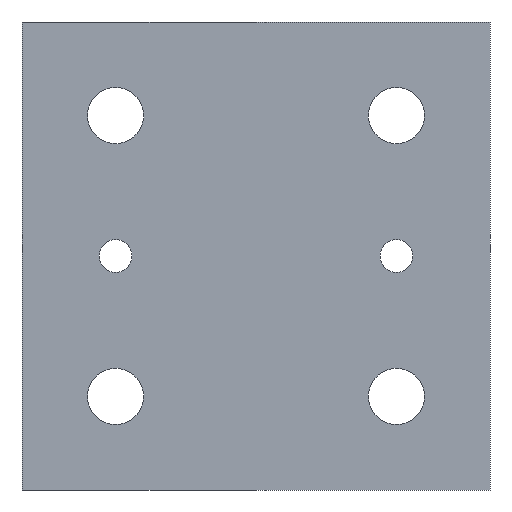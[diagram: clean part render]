
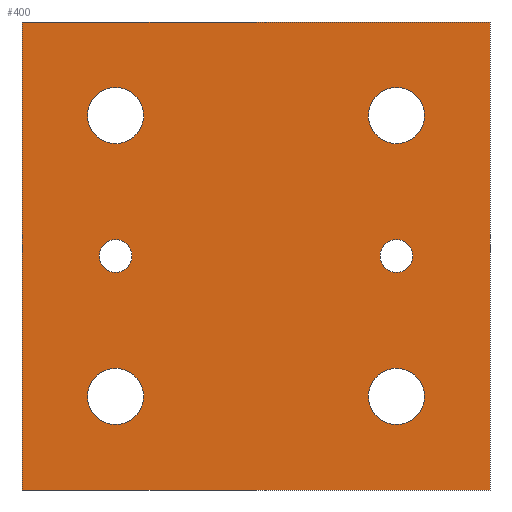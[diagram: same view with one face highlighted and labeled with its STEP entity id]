
A CAD part, front view. The second image highlights one B-rep face of the part: STEP entity #400.
In plain terms, the highlighted planar face has unit normal (0, -1, 0).
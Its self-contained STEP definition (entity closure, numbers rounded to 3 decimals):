
#1 = DIRECTION ( 'NONE',  ( 0., 0., -1. ) ) ;
#12 = EDGE_LOOP ( 'NONE', ( #107, #308 ) ) ;
#18 = CARTESIAN_POINT ( 'NONE',  ( 7., 0., 20. ) ) ;
#21 = ORIENTED_EDGE ( 'NONE', *, *, #258, .F. ) ;
#23 = ORIENTED_EDGE ( 'NONE', *, *, #498, .F. ) ;
#27 = DIRECTION ( 'NONE',  ( 0., 1., 0. ) ) ;
#35 = DIRECTION ( 'NONE',  ( 0., 1., 0. ) ) ;
#36 = CARTESIAN_POINT ( 'NONE',  ( 40., 0., 50. ) ) ;
#43 = ORIENTED_EDGE ( 'NONE', *, *, #119, .T. ) ;
#44 = CARTESIAN_POINT ( 'NONE',  ( 37., 0., 50. ) ) ;
#46 = EDGE_CURVE ( 'NONE', #563, #218, #174, .T. ) ;
#52 = CARTESIAN_POINT ( 'NONE',  ( 0., 0., 10. ) ) ;
#60 = EDGE_CURVE ( 'NONE', #589, #433, #224, .T. ) ;
#64 = DIRECTION ( 'NONE',  ( -1., 0., 0. ) ) ;
#66 = CARTESIAN_POINT ( 'NONE',  ( 43., 0., 50. ) ) ;
#67 = DIRECTION ( 'NONE',  ( 1., 0., 0. ) ) ;
#87 = CARTESIAN_POINT ( 'NONE',  ( 50., 0., 60. ) ) ;
#88 = CARTESIAN_POINT ( 'NONE',  ( 0., 0., 10. ) ) ;
#89 = EDGE_CURVE ( 'NONE', #534, #252, #588, .T. ) ;
#91 = EDGE_LOOP ( 'NONE', ( #200, #154 ) ) ;
#95 = FACE_BOUND ( 'NONE', #91, .T. ) ;
#100 = EDGE_LOOP ( 'NONE', ( #123, #673 ) ) ;
#107 = ORIENTED_EDGE ( 'NONE', *, *, #89, .T. ) ;
#114 = CIRCLE ( 'NONE', #324, 1.75 ) ;
#117 = CARTESIAN_POINT ( 'NONE',  ( 38.25, 0., 35. ) ) ;
#118 = CIRCLE ( 'NONE', #326, 3. ) ;
#119 = EDGE_CURVE ( 'NONE', #640, #162, #114, .T. ) ;
#123 = ORIENTED_EDGE ( 'NONE', *, *, #717, .T. ) ;
#127 = ORIENTED_EDGE ( 'NONE', *, *, #661, .T. ) ;
#136 = AXIS2_PLACEMENT_3D ( 'NONE', #660, #662, #545 ) ;
#140 = FACE_BOUND ( 'NONE', #12, .T. ) ;
#152 = DIRECTION ( 'NONE',  ( 1., 0., 0. ) ) ;
#154 = ORIENTED_EDGE ( 'NONE', *, *, #220, .T. ) ;
#158 = LINE ( 'NONE', #558, #653 ) ;
#161 = CIRCLE ( 'NONE', #304, 1.75 ) ;
#162 = VERTEX_POINT ( 'NONE', #349 ) ;
#163 = CARTESIAN_POINT ( 'NONE',  ( 10., 0., 20. ) ) ;
#174 = LINE ( 'NONE', #565, #720 ) ;
#176 = AXIS2_PLACEMENT_3D ( 'NONE', #36, #312, #152 ) ;
#177 = VERTEX_POINT ( 'NONE', #346 ) ;
#182 = CARTESIAN_POINT ( 'NONE',  ( 10., 0., 50. ) ) ;
#183 = CARTESIAN_POINT ( 'NONE',  ( 10., 0., 50. ) ) ;
#200 = ORIENTED_EDGE ( 'NONE', *, *, #60, .T. ) ;
#202 = CIRCLE ( 'NONE', #719, 1.75 ) ;
#207 = AXIS2_PLACEMENT_3D ( 'NONE', #318, #261, #479 ) ;
#215 = CIRCLE ( 'NONE', #289, 3. ) ;
#218 = VERTEX_POINT ( 'NONE', #696 ) ;
#219 = EDGE_LOOP ( 'NONE', ( #664, #43 ) ) ;
#220 = EDGE_CURVE ( 'NONE', #433, #589, #215, .T. ) ;
#224 = CIRCLE ( 'NONE', #703, 3. ) ;
#231 = CARTESIAN_POINT ( 'NONE',  ( 40., 0., 20. ) ) ;
#236 = CIRCLE ( 'NONE', #176, 3. ) ;
#243 = FACE_BOUND ( 'NONE', #665, .T. ) ;
#244 = DIRECTION ( 'NONE',  ( -1., 0., 0. ) ) ;
#252 = VERTEX_POINT ( 'NONE', #458 ) ;
#253 = VECTOR ( 'NONE', #581, 1000. ) ;
#258 = EDGE_CURVE ( 'NONE', #464, #386, #350, .T. ) ;
#261 = DIRECTION ( 'NONE',  ( 0., 1., 0. ) ) ;
#265 = EDGE_LOOP ( 'NONE', ( #504, #721, #23, #21 ) ) ;
#268 = CIRCLE ( 'NONE', #367, 3. ) ;
#280 = EDGE_CURVE ( 'NONE', #162, #640, #161, .T. ) ;
#281 = DIRECTION ( 'NONE',  ( 0., 1., 0. ) ) ;
#286 = DIRECTION ( 'NONE',  ( 0., 1., 0. ) ) ;
#289 = AXIS2_PLACEMENT_3D ( 'NONE', #359, #35, #297 ) ;
#297 = DIRECTION ( 'NONE',  ( 1., 0., 0. ) ) ;
#304 = AXIS2_PLACEMENT_3D ( 'NONE', #468, #541, #483 ) ;
#306 = VERTEX_POINT ( 'NONE', #44 ) ;
#308 = ORIENTED_EDGE ( 'NONE', *, *, #644, .T. ) ;
#312 = DIRECTION ( 'NONE',  ( 0., 1., 0. ) ) ;
#318 = CARTESIAN_POINT ( 'NONE',  ( 40., 0., 50. ) ) ;
#320 = EDGE_CURVE ( 'NONE', #627, #177, #118, .T. ) ;
#324 = AXIS2_PLACEMENT_3D ( 'NONE', #342, #399, #508 ) ;
#326 = AXIS2_PLACEMENT_3D ( 'NONE', #163, #370, #718 ) ;
#328 = CARTESIAN_POINT ( 'NONE',  ( 43., 0., 20. ) ) ;
#340 = CARTESIAN_POINT ( 'NONE',  ( 11.75, 0., 35. ) ) ;
#342 = CARTESIAN_POINT ( 'NONE',  ( 10., 0., 35. ) ) ;
#344 = DIRECTION ( 'NONE',  ( 0., 1., 0. ) ) ;
#346 = CARTESIAN_POINT ( 'NONE',  ( 13., 0., 20. ) ) ;
#349 = CARTESIAN_POINT ( 'NONE',  ( 8.25, 0., 35. ) ) ;
#350 = LINE ( 'NONE', #87, #647 ) ;
#359 = CARTESIAN_POINT ( 'NONE',  ( 40., 0., 20. ) ) ;
#361 = ORIENTED_EDGE ( 'NONE', *, *, #649, .T. ) ;
#363 = EDGE_CURVE ( 'NONE', #572, #306, #577, .T. ) ;
#367 = AXIS2_PLACEMENT_3D ( 'NONE', #183, #286, #568 ) ;
#370 = DIRECTION ( 'NONE',  ( 0., 1., 0. ) ) ;
#372 = FACE_OUTER_BOUND ( 'NONE', #265, .T. ) ;
#386 = VERTEX_POINT ( 'NONE', #536 ) ;
#387 = CARTESIAN_POINT ( 'NONE',  ( 7., 0., 50. ) ) ;
#396 = ORIENTED_EDGE ( 'NONE', *, *, #599, .T. ) ;
#398 = LINE ( 'NONE', #88, #253 ) ;
#399 = DIRECTION ( 'NONE',  ( 0., 1., 0. ) ) ;
#400 = ADVANCED_FACE ( 'NONE', ( #522, #140, #409, #95, #702, #243, #372 ), #481, .F. ) ;
#404 = DIRECTION ( 'NONE',  ( 1., 0., 0. ) ) ;
#409 = FACE_BOUND ( 'NONE', #100, .T. ) ;
#426 = ORIENTED_EDGE ( 'NONE', *, *, #320, .T. ) ;
#433 = VERTEX_POINT ( 'NONE', #328 ) ;
#444 = DIRECTION ( 'NONE',  ( 1., 0., 0. ) ) ;
#450 = CARTESIAN_POINT ( 'NONE',  ( 41.75, 0., 35. ) ) ;
#451 = DIRECTION ( 'NONE',  ( 1., 0., 0. ) ) ;
#458 = CARTESIAN_POINT ( 'NONE',  ( 13., 0., 50. ) ) ;
#459 = CARTESIAN_POINT ( 'NONE',  ( 40., 0., 35. ) ) ;
#464 = VERTEX_POINT ( 'NONE', #495 ) ;
#468 = CARTESIAN_POINT ( 'NONE',  ( 10., 0., 35. ) ) ;
#471 = DIRECTION ( 'NONE',  ( 0., 1., 0. ) ) ;
#473 = EDGE_LOOP ( 'NONE', ( #426, #127 ) ) ;
#479 = DIRECTION ( 'NONE',  ( 1., 0., 0. ) ) ;
#481 = PLANE ( 'NONE',  #136 ) ;
#483 = DIRECTION ( 'NONE',  ( -1., 0., 0. ) ) ;
#495 = CARTESIAN_POINT ( 'NONE',  ( 0., 0., 60. ) ) ;
#498 = EDGE_CURVE ( 'NONE', #386, #218, #158, .T. ) ;
#502 = CARTESIAN_POINT ( 'NONE',  ( 37., 0., 20. ) ) ;
#504 = ORIENTED_EDGE ( 'NONE', *, *, #707, .T. ) ;
#507 = VERTEX_POINT ( 'NONE', #117 ) ;
#508 = DIRECTION ( 'NONE',  ( -1., 0., 0. ) ) ;
#513 = CARTESIAN_POINT ( 'NONE',  ( 40., 0., 35. ) ) ;
#514 = DIRECTION ( 'NONE',  ( 1., 0., 0. ) ) ;
#521 = CARTESIAN_POINT ( 'NONE',  ( 10., 0., 20. ) ) ;
#522 = FACE_BOUND ( 'NONE', #219, .T. ) ;
#534 = VERTEX_POINT ( 'NONE', #387 ) ;
#536 = CARTESIAN_POINT ( 'NONE',  ( 50., 0., 60. ) ) ;
#541 = DIRECTION ( 'NONE',  ( 0., 1., 0. ) ) ;
#542 = AXIS2_PLACEMENT_3D ( 'NONE', #521, #27, #404 ) ;
#545 = DIRECTION ( 'NONE',  ( 0., 0., 1. ) ) ;
#558 = CARTESIAN_POINT ( 'NONE',  ( 50., 0., 10. ) ) ;
#563 = VERTEX_POINT ( 'NONE', #52 ) ;
#565 = CARTESIAN_POINT ( 'NONE',  ( 0., 0., 10. ) ) ;
#568 = DIRECTION ( 'NONE',  ( 1., 0., 0. ) ) ;
#572 = VERTEX_POINT ( 'NONE', #66 ) ;
#577 = CIRCLE ( 'NONE', #207, 3. ) ;
#581 = DIRECTION ( 'NONE',  ( 0., 0., -1. ) ) ;
#588 = CIRCLE ( 'NONE', #632, 3. ) ;
#589 = VERTEX_POINT ( 'NONE', #502 ) ;
#599 = EDGE_CURVE ( 'NONE', #507, #659, #642, .T. ) ;
#621 = DIRECTION ( 'NONE',  ( 0., 1., 0. ) ) ;
#623 = AXIS2_PLACEMENT_3D ( 'NONE', #513, #281, #64 ) ;
#627 = VERTEX_POINT ( 'NONE', #18 ) ;
#632 = AXIS2_PLACEMENT_3D ( 'NONE', #182, #621, #451 ) ;
#640 = VERTEX_POINT ( 'NONE', #340 ) ;
#642 = CIRCLE ( 'NONE', #623, 1.75 ) ;
#644 = EDGE_CURVE ( 'NONE', #252, #534, #268, .T. ) ;
#647 = VECTOR ( 'NONE', #514, 1000. ) ;
#649 = EDGE_CURVE ( 'NONE', #659, #507, #202, .T. ) ;
#653 = VECTOR ( 'NONE', #1, 1000. ) ;
#659 = VERTEX_POINT ( 'NONE', #450 ) ;
#660 = CARTESIAN_POINT ( 'NONE',  ( 0., 0., 10. ) ) ;
#661 = EDGE_CURVE ( 'NONE', #177, #627, #688, .T. ) ;
#662 = DIRECTION ( 'NONE',  ( 0., 1., 0. ) ) ;
#664 = ORIENTED_EDGE ( 'NONE', *, *, #280, .T. ) ;
#665 = EDGE_LOOP ( 'NONE', ( #396, #361 ) ) ;
#673 = ORIENTED_EDGE ( 'NONE', *, *, #363, .T. ) ;
#688 = CIRCLE ( 'NONE', #542, 3. ) ;
#696 = CARTESIAN_POINT ( 'NONE',  ( 50., 0., 10. ) ) ;
#702 = FACE_BOUND ( 'NONE', #473, .T. ) ;
#703 = AXIS2_PLACEMENT_3D ( 'NONE', #231, #344, #67 ) ;
#707 = EDGE_CURVE ( 'NONE', #464, #563, #398, .T. ) ;
#717 = EDGE_CURVE ( 'NONE', #306, #572, #236, .T. ) ;
#718 = DIRECTION ( 'NONE',  ( 1., 0., 0. ) ) ;
#719 = AXIS2_PLACEMENT_3D ( 'NONE', #459, #471, #244 ) ;
#720 = VECTOR ( 'NONE', #444, 1000. ) ;
#721 = ORIENTED_EDGE ( 'NONE', *, *, #46, .T. ) ;
